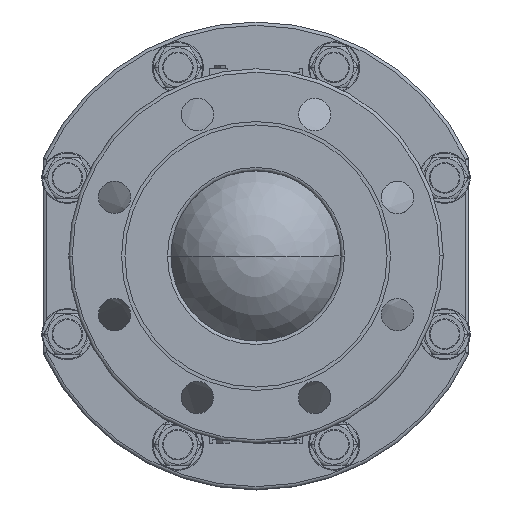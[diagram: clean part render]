
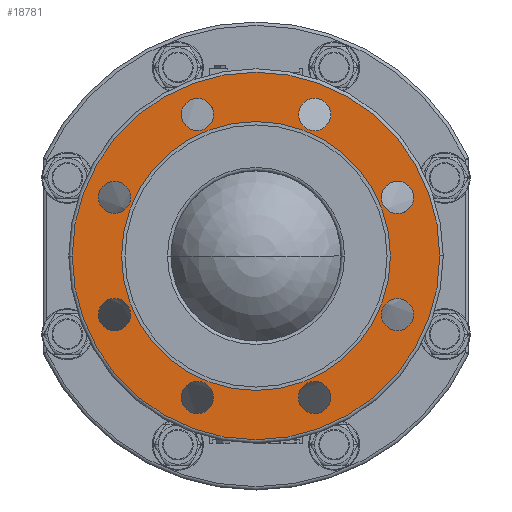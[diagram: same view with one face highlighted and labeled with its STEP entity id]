
A CAD part, left-side view. The second image highlights one B-rep face of the part: STEP entity #18781.
In plain terms, the highlighted planar face has unit normal (-1, 0, 0).
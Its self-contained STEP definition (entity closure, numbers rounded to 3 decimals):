
#57=CARTESIAN_POINT('',(-144.848,0.,0.));
#58=DIRECTION('',(1.,0.,0.));
#59=DIRECTION('',(0.,-1.,0.));
#60=AXIS2_PLACEMENT_3D('',#57,#58,#59);
#62=CARTESIAN_POINT('',(-144.848,0.,0.));
#63=DIRECTION('',(1.,0.,0.));
#64=DIRECTION('',(0.,1.,0.));
#65=AXIS2_PLACEMENT_3D('',#62,#63,#64);
#67=CARTESIAN_POINT('',(-144.848,0.,0.));
#68=DIRECTION('',(-1.,0.,0.));
#69=DIRECTION('',(0.,1.,0.));
#70=AXIS2_PLACEMENT_3D('',#67,#68,#69);
#72=CARTESIAN_POINT('',(-144.848,0.,0.));
#73=DIRECTION('',(-1.,0.,0.));
#74=DIRECTION('',(0.,-1.,0.));
#75=AXIS2_PLACEMENT_3D('',#72,#73,#74);
#77=CARTESIAN_POINT('',(-144.848,-34.442,83.149));
#78=DIRECTION('',(-1.,0.,0.));
#79=DIRECTION('',(0.,-1.,0.));
#80=AXIS2_PLACEMENT_3D('',#77,#78,#79);
#82=CARTESIAN_POINT('',(-144.848,-34.442,83.149));
#83=DIRECTION('',(-1.,0.,0.));
#84=DIRECTION('',(0.,1.,0.));
#85=AXIS2_PLACEMENT_3D('',#82,#83,#84);
#87=CARTESIAN_POINT('',(-144.848,-83.149,34.442));
#88=DIRECTION('',(-1.,0.,0.));
#89=DIRECTION('',(0.,-0.707,-0.707));
#90=AXIS2_PLACEMENT_3D('',#87,#88,#89);
#92=CARTESIAN_POINT('',(-144.848,-83.149,34.442));
#93=DIRECTION('',(-1.,0.,0.));
#94=DIRECTION('',(0.,0.707,0.707));
#95=AXIS2_PLACEMENT_3D('',#92,#93,#94);
#97=CARTESIAN_POINT('',(-144.848,-83.149,-34.442));
#98=DIRECTION('',(-1.,0.,0.));
#99=DIRECTION('',(0.,0.,-1.));
#100=AXIS2_PLACEMENT_3D('',#97,#98,#99);
#102=CARTESIAN_POINT('',(-144.848,-83.149,
-34.442));
#103=DIRECTION('',(-1.,0.,0.));
#104=DIRECTION('',(0.,0.,1.));
#105=AXIS2_PLACEMENT_3D('',#102,#103,#104);
#107=CARTESIAN_POINT('',(-144.848,-34.442,
-83.149));
#108=DIRECTION('',(-1.,0.,0.));
#109=DIRECTION('',(0.,0.707,-0.707));
#110=AXIS2_PLACEMENT_3D('',#107,#108,#109);
#112=CARTESIAN_POINT('',(-144.848,-34.442,
-83.149));
#113=DIRECTION('',(-1.,0.,0.));
#114=DIRECTION('',(0.,-0.707,0.707));
#115=AXIS2_PLACEMENT_3D('',#112,#113,#114);
#117=CARTESIAN_POINT('',(-144.848,34.442,-83.149));
#118=DIRECTION('',(-1.,0.,0.));
#119=DIRECTION('',(0.,1.,0.));
#120=AXIS2_PLACEMENT_3D('',#117,#118,#119);
#122=CARTESIAN_POINT('',(-144.848,34.442,-83.149));
#123=DIRECTION('',(-1.,0.,0.));
#124=DIRECTION('',(0.,-1.,0.));
#125=AXIS2_PLACEMENT_3D('',#122,#123,#124);
#127=CARTESIAN_POINT('',(-144.848,83.149,-34.442));
#128=DIRECTION('',(-1.,0.,0.));
#129=DIRECTION('',(0.,0.707,0.707));
#130=AXIS2_PLACEMENT_3D('',#127,#128,#129);
#132=CARTESIAN_POINT('',(-144.848,83.149,-34.442));
#133=DIRECTION('',(-1.,0.,0.));
#134=DIRECTION('',(0.,-0.707,-0.707));
#135=AXIS2_PLACEMENT_3D('',#132,#133,#134);
#137=CARTESIAN_POINT('',(-144.848,83.149,34.442));
#138=DIRECTION('',(-1.,0.,0.));
#139=DIRECTION('',(0.,0.,1.));
#140=AXIS2_PLACEMENT_3D('',#137,#138,#139);
#142=CARTESIAN_POINT('',(-144.848,83.149,34.442));
#143=DIRECTION('',(-1.,0.,0.));
#144=DIRECTION('',(0.,0.,-1.));
#145=AXIS2_PLACEMENT_3D('',#142,#143,#144);
#147=CARTESIAN_POINT('',(-144.848,34.442,83.149));
#148=DIRECTION('',(-1.,0.,0.));
#149=DIRECTION('',(0.,-0.707,0.707));
#150=AXIS2_PLACEMENT_3D('',#147,#148,#149);
#152=CARTESIAN_POINT('',(-144.848,34.442,83.149));
#153=DIRECTION('',(-1.,0.,0.));
#154=DIRECTION('',(0.,0.707,-0.707));
#155=AXIS2_PLACEMENT_3D('',#152,#153,#154);
#16159=CARTESIAN_POINT('',(-144.848,-79.,0.));
#16160=VERTEX_POINT('',#16159);
#16161=CARTESIAN_POINT('',(-144.848,79.,0.));
#16162=VERTEX_POINT('',#16161);
#16163=CARTESIAN_POINT('',(-144.848,-108.,0.));
#16164=CARTESIAN_POINT('',(-144.848,108.,0.));
#16165=VERTEX_POINT('',#16163);
#16166=VERTEX_POINT('',#16164);
#16167=CARTESIAN_POINT('',(-144.848,-43.942,
83.149));
#16168=CARTESIAN_POINT('',(-144.848,-24.942,
83.149));
#16169=VERTEX_POINT('',#16167);
#16170=VERTEX_POINT('',#16168);
#16171=CARTESIAN_POINT('',(-144.848,-89.867,
27.724));
#16172=CARTESIAN_POINT('',(-144.848,-76.432,
41.159));
#16173=VERTEX_POINT('',#16171);
#16174=VERTEX_POINT('',#16172);
#16175=CARTESIAN_POINT('',(-144.848,-83.149,
-43.942));
#16176=CARTESIAN_POINT('',(-144.848,-83.149,
-24.942));
#16177=VERTEX_POINT('',#16175);
#16178=VERTEX_POINT('',#16176);
#16179=CARTESIAN_POINT('',(-144.848,-27.724,
-89.867));
#16180=CARTESIAN_POINT('',(-144.848,-41.159,
-76.432));
#16181=VERTEX_POINT('',#16179);
#16182=VERTEX_POINT('',#16180);
#16183=CARTESIAN_POINT('',(-144.848,43.942,
-83.149));
#16184=CARTESIAN_POINT('',(-144.848,24.942,
-83.149));
#16185=VERTEX_POINT('',#16183);
#16186=VERTEX_POINT('',#16184);
#16187=CARTESIAN_POINT('',(-144.848,89.867,
-27.724));
#16188=CARTESIAN_POINT('',(-144.848,76.432,
-41.159));
#16189=VERTEX_POINT('',#16187);
#16190=VERTEX_POINT('',#16188);
#16191=CARTESIAN_POINT('',(-144.848,83.149,
43.942));
#16192=CARTESIAN_POINT('',(-144.848,83.149,
24.942));
#16193=VERTEX_POINT('',#16191);
#16194=VERTEX_POINT('',#16192);
#16195=CARTESIAN_POINT('',(-144.848,27.724,
89.867));
#16196=CARTESIAN_POINT('',(-144.848,41.159,
76.432));
#16197=VERTEX_POINT('',#16195);
#16198=VERTEX_POINT('',#16196);
#18718=CARTESIAN_POINT('',(-144.848,0.,0.));
#18719=DIRECTION('',(1.,0.,0.));
#18720=DIRECTION('',(0.,1.,0.));
#18721=AXIS2_PLACEMENT_3D('',#18718,#18719,#18720);
#18722=PLANE('',#18721);
#18724=ORIENTED_EDGE('',*,*,#18723,.T.);
#18726=ORIENTED_EDGE('',*,*,#18725,.T.);
#18727=EDGE_LOOP('',(#18724,#18726));
#18728=FACE_OUTER_BOUND('',#18727,.F.);
#18729=ORIENTED_EDGE('',*,*,#18711,.T.);
#18730=ORIENTED_EDGE('',*,*,#18700,.T.);
#18731=EDGE_LOOP('',(#18729,#18730));
#18732=FACE_BOUND('',#18731,.F.);
#18734=ORIENTED_EDGE('',*,*,#18733,.T.);
#18736=ORIENTED_EDGE('',*,*,#18735,.T.);
#18737=EDGE_LOOP('',(#18734,#18736));
#18738=FACE_BOUND('',#18737,.F.);
#18740=ORIENTED_EDGE('',*,*,#18739,.T.);
#18742=ORIENTED_EDGE('',*,*,#18741,.T.);
#18743=EDGE_LOOP('',(#18740,#18742));
#18744=FACE_BOUND('',#18743,.F.);
#18746=ORIENTED_EDGE('',*,*,#18745,.T.);
#18748=ORIENTED_EDGE('',*,*,#18747,.T.);
#18749=EDGE_LOOP('',(#18746,#18748));
#18750=FACE_BOUND('',#18749,.F.);
#18752=ORIENTED_EDGE('',*,*,#18751,.T.);
#18754=ORIENTED_EDGE('',*,*,#18753,.T.);
#18755=EDGE_LOOP('',(#18752,#18754));
#18756=FACE_BOUND('',#18755,.F.);
#18758=ORIENTED_EDGE('',*,*,#18757,.T.);
#18760=ORIENTED_EDGE('',*,*,#18759,.T.);
#18761=EDGE_LOOP('',(#18758,#18760));
#18762=FACE_BOUND('',#18761,.F.);
#18764=ORIENTED_EDGE('',*,*,#18763,.T.);
#18766=ORIENTED_EDGE('',*,*,#18765,.T.);
#18767=EDGE_LOOP('',(#18764,#18766));
#18768=FACE_BOUND('',#18767,.F.);
#18770=ORIENTED_EDGE('',*,*,#18769,.T.);
#18772=ORIENTED_EDGE('',*,*,#18771,.T.);
#18773=EDGE_LOOP('',(#18770,#18772));
#18774=FACE_BOUND('',#18773,.F.);
#18776=ORIENTED_EDGE('',*,*,#18775,.T.);
#18778=ORIENTED_EDGE('',*,*,#18777,.T.);
#18779=EDGE_LOOP('',(#18776,#18778));
#18780=FACE_BOUND('',#18779,.F.);
#18781=ADVANCED_FACE('',(#18728,#18732,#18738,#18744,#18750,#18756,#18762,
#18768,#18774,#18780),#18722,.F.);
#61=CIRCLE('',#60,108.);
#66=CIRCLE('',#65,108.);
#71=CIRCLE('',#70,79.);
#76=CIRCLE('',#75,79.);
#81=CIRCLE('',#80,9.5);
#86=CIRCLE('',#85,9.5);
#91=CIRCLE('',#90,9.5);
#96=CIRCLE('',#95,9.5);
#101=CIRCLE('',#100,9.5);
#106=CIRCLE('',#105,9.5);
#111=CIRCLE('',#110,9.5);
#116=CIRCLE('',#115,9.5);
#121=CIRCLE('',#120,9.5);
#126=CIRCLE('',#125,9.5);
#131=CIRCLE('',#130,9.5);
#136=CIRCLE('',#135,9.5);
#141=CIRCLE('',#140,9.5);
#146=CIRCLE('',#145,9.5);
#151=CIRCLE('',#150,9.5);
#156=CIRCLE('',#155,9.5);
#18700=EDGE_CURVE('',#16160,#16162,#76,.T.);
#18711=EDGE_CURVE('',#16162,#16160,#71,.T.);
#18723=EDGE_CURVE('',#16165,#16166,#61,.T.);
#18725=EDGE_CURVE('',#16166,#16165,#66,.T.);
#18733=EDGE_CURVE('',#16169,#16170,#81,.T.);
#18735=EDGE_CURVE('',#16170,#16169,#86,.T.);
#18739=EDGE_CURVE('',#16173,#16174,#91,.T.);
#18741=EDGE_CURVE('',#16174,#16173,#96,.T.);
#18745=EDGE_CURVE('',#16177,#16178,#101,.T.);
#18747=EDGE_CURVE('',#16178,#16177,#106,.T.);
#18751=EDGE_CURVE('',#16181,#16182,#111,.T.);
#18753=EDGE_CURVE('',#16182,#16181,#116,.T.);
#18757=EDGE_CURVE('',#16185,#16186,#121,.T.);
#18759=EDGE_CURVE('',#16186,#16185,#126,.T.);
#18763=EDGE_CURVE('',#16189,#16190,#131,.T.);
#18765=EDGE_CURVE('',#16190,#16189,#136,.T.);
#18769=EDGE_CURVE('',#16193,#16194,#141,.T.);
#18771=EDGE_CURVE('',#16194,#16193,#146,.T.);
#18775=EDGE_CURVE('',#16197,#16198,#151,.T.);
#18777=EDGE_CURVE('',#16198,#16197,#156,.T.);
